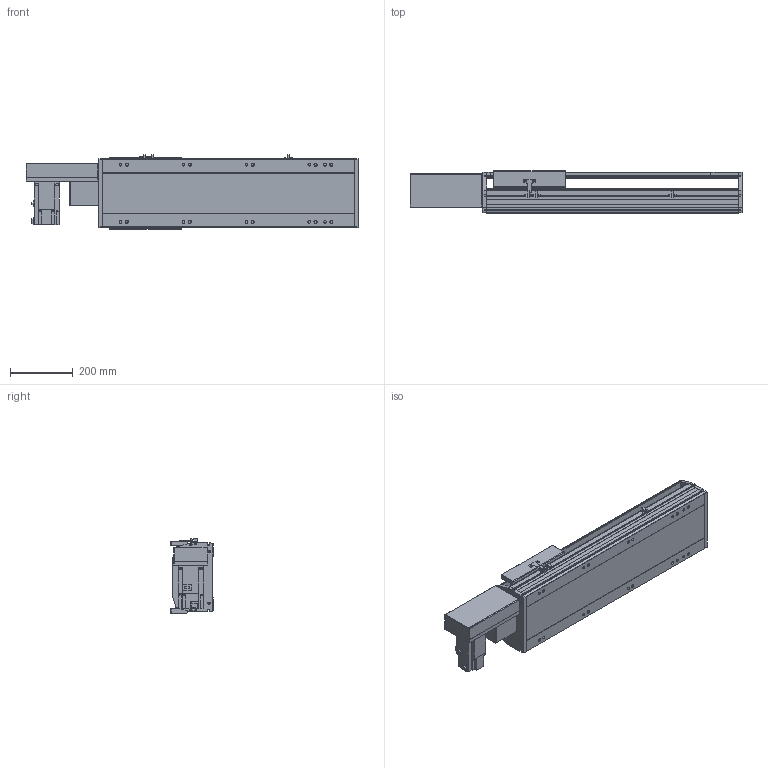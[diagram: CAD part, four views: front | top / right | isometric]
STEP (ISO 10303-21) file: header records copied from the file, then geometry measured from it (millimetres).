
FILE_DESCRIPTION(/* description */ ('STEP AP214'),/* implementation_level */ '2;1');
FILE_NAME(/* name */ 'PBS220-P40-S450-R-T75-C1-N(0)',/* time_stamp */ '2022-06-11T09:59:53+02:00',/* author */ ('License CC BY-ND 4.0'),/* organization */ ('CADENAS'),/* preprocessor_version */ 'ST-DEVELOPER v18.102',/* originating_system */ 'PARTsolutions',/* authorisation */ ' ');
FILE_SCHEMA (('AUTOMOTIVE_DESIGN {1 0 10303 214 3 1 1}'));
Length unit declared in the file: millimetre
Products named in the file (7): PBS220-P40-S450-R-T75-C1-N(0); PBS220_sensor; PBS220_plant; PBS220_sliser; T75-p1; PBS220T-R_motors; PBS220-S450()_body
Assembly tree (8 placements, depth 2):
  PBS220-P40-S450-R-T75-C1-N(0)
    PBS220_sensor  x3
    PBS220_plant
    PBS220_sliser
    T75-p1
    PBS220T-R_motors
    PBS220-S450()_body
Bounding box: 1056 x 134 x 238.5 mm (x, y, z)
Volume: 14045531.7 mm3; surface area: 1471473.8 mm2
Topology: 8 solids, 8 shells, 878 faces, 2312 edges, 1504 vertices
Faces by surface type: plane 586, cylinder 258, cone 34
Full cylindrical faces by diameter (mm): 2.013 x4, 4.5 x14, 4.917 x4, 6 x7, 6.647 x8, 8 x10, 8.376 x10, 8.5 x10, 10 x6, 14 x10, 38 x2, 40 x1, 70 x1
Entity records: 24693 total; most frequent: CARTESIAN_POINT 4294, DIRECTION 4293, ORIENTED_EDGE 3998, EDGE_CURVE 1999, AXIS2_PLACEMENT_3D 1477, VERTEX_POINT 1368, LINE 1339, VECTOR 1339
